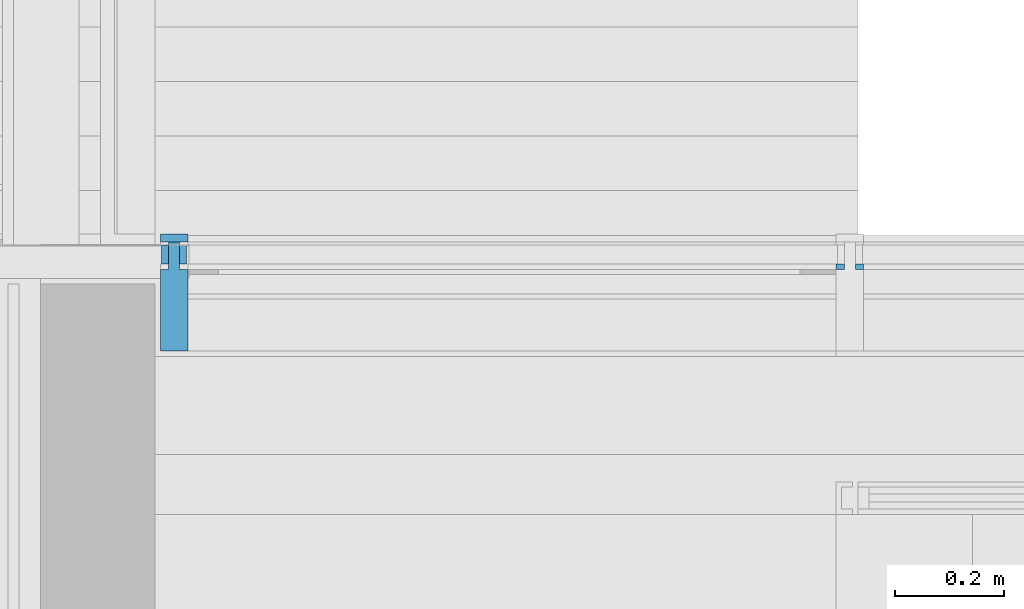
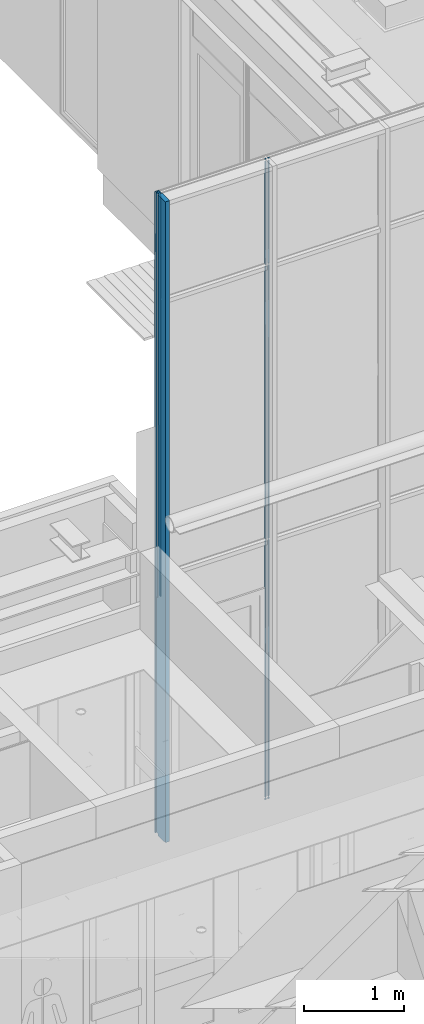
# One storey, part 97 of 347: 6 building element parts, 2 elements without a shape of their own.
"""IFC2X3 building model written with IfcOpenShell, lengths in millimetres."""

from ifc_helpers import new_model, entity, si_unit, converted_unit, derived_unit, money_unit, direction, frame, origin_with_axes, place, context, subcontext, project, spatial, faceted_brep, material, type_object, element, aggregate, save


model = new_model("IFC2X3")

# Units and contexts
model_context = context("Model", 3, precision=0.01, world=origin_with_axes(), true_north=direction((0.0, 1.0)))
plan_context = context("Plan", 3, precision=0.01, world=origin_with_axes(), true_north=direction((0.0, 1.0)))
body_context = subcontext(model_context, "Body", "Model", "MODEL_VIEW")
ifc_project = project(units=[si_unit("LENGTHUNIT", "METRE", prefix="MILLI"), si_unit("AREAUNIT", "SQUARE_METRE"), si_unit("VOLUMEUNIT", "CUBIC_METRE"), converted_unit("PLANEANGLEUNIT", "DEGREE", entity("IfcPlaneAngleMeasure", 0.0174532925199), si_unit("PLANEANGLEUNIT", "RADIAN"), dimensions=[0, 0, 0, 0, 0, 0, 0]), money_unit("EUR"), converted_unit("TIMEUNIT", "Year", entity("IfcTimeMeasure", 31556926.0), si_unit("TIMEUNIT", "SECOND"), dimensions=[0, 0, 1, 0, 0, 0, 0]), si_unit("MASSUNIT", "GRAM", prefix="KILO"), si_unit("THERMODYNAMICTEMPERATUREUNIT", "DEGREE_CELSIUS"), si_unit("LUMINOUSINTENSITYUNIT", "LUMEN"), si_unit("ENERGYUNIT", "JOULE", prefix="MEGA"), derived_unit("THERMALCONDUCTANCEUNIT", [(si_unit("POWERUNIT", "WATT"), 1), (si_unit("LENGTHUNIT", "METRE"), -1), (si_unit("THERMODYNAMICTEMPERATUREUNIT", "KELVIN"), -1)]), derived_unit("SPECIFICHEATCAPACITYUNIT", [(si_unit("ENERGYUNIT", "JOULE"), 1), (si_unit("MASSUNIT", "GRAM", prefix="KILO"), -1), (si_unit("THERMODYNAMICTEMPERATUREUNIT", "KELVIN"), -1)]), derived_unit("MASSDENSITYUNIT", [(si_unit("MASSUNIT", "GRAM", prefix="KILO"), 1), (si_unit("VOLUMEUNIT", "CUBIC_METRE"), -1)])], contexts=[model_context, plan_context])

# Site, building, storey
site_placement = place(None, origin_with_axes())
site = spatial("IfcSite", under=ifc_project, at=site_placement, Name="Site", CompositionType="ELEMENT")
building_placement = place(site_placement, origin_with_axes())
building = spatial("IfcBuilding", under=site, at=building_placement, Name="Naam gebouw", CompositionType="ELEMENT")
storey_placement = place(building_placement, origin_with_axes())
storey = spatial("IfcBuildingStorey", under=building, at=storey_placement, Name="begane grond", CompositionType="ELEMENT", Elevation=0.0)

# Column, building element parts
column_type = type_object("IfcColumnType", Name="31 vliesgevelstijl 50 x 215", PredefinedType="COLUMN")
column_1_placement = place(storey_placement, frame((18650.0, 18400.0, 0.0), z_axis=(0.0, 0.0, 1.0), x_axis=(1.0, 0.0, 0.0)))
column_1 = element("IfcColumn", 1, at=column_1_placement, inside=storey, type_object=column_type, Name="28_kolom ø 275mm", ObjectType="COLUMN")
ifc_material_1 = material(Name="Membraan - rubber")
building_element_part_1_placement = place(column_1_placement, origin_with_axes())
building_element_part_1 = element("IfcBuildingElementPart", 2, at=building_element_part_1_placement, material=ifc_material_1, Name="Membraan - rubber", context=body_context, shape_type="Brep", body=[
    faceted_brep([(23.0000002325, 192.999999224, 3185.00000058), (23.0000002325, 192.999999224, 4980.0), (23.0000002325, 195.000000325, 4980.0), (23.0000002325, 195.000000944, 6525.00000048), (23.0000002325, 160.000000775, 6525.00000048), (23.0000002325, 160.000000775, 3185.00000058), (15.0, 192.999999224, 3185.00000058), (15.0, 192.999999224, 3165.00000048), (23.0000002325, 192.999999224, 3165.00000048), (23.0000002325, 192.999999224, 2900.0), (10.0000001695, 192.999999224, 2900.0), (10.0000001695, 192.999999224, 4980.0), (10.0000001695, 195.000000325, 4980.0), (10.0000001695, 195.000000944, 7840.0), (23.0000002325, 195.000000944, 7840.0), (23.0000002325, 195.000000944, 7824.99999994), (15.0, 195.000000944, 7824.99999994), (15.0, 195.000000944, 7804.99999952), (23.0000002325, 195.000000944, 7804.99999952), (23.0000002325, 195.000000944, 6545.00000058), (15.0, 195.000000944, 6545.00000058), (15.0, 195.000000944, 6525.00000048), (15.0, 160.000000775, 6525.00000048), (10.0000001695, 160.000000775, 7840.0), (10.0000001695, 160.000000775, 2900.0), (23.0000002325, 160.000000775, 2900.0), (23.0000002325, 160.000000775, 3165.00000048), (15.0, 160.000000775, 3165.00000048), (15.0, 160.000000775, 3185.00000058), (15.0, 160.000000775, 6545.00000058), (23.0000002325, 160.000000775, 6545.00000058), (23.0000002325, 160.000000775, 7804.99999952), (15.0, 160.000000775, 7804.99999952), (15.0, 160.000000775, 7824.99999994), (23.0000002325, 160.000000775, 7824.99999994), (23.0000002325, 160.000000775, 7840.0)], [[[0, 1, 2, 3, 4, 5]], [[1, 0, 6, 7, 8, 9, 10, 11]], [[12, 2, 1, 11]], [[2, 12, 13, 14, 15, 16, 17, 18, 19, 20, 21, 3]], [[22, 4, 3, 21]], [[23, 24, 25, 26, 27, 28, 5, 4, 22, 29, 30, 31, 32, 33, 34, 35]], [[6, 0, 5, 28]], [[7, 6, 28, 27]], [[8, 7, 27, 26]], [[9, 8, 26, 25]], [[10, 9, 25, 24]], [[11, 10, 24, 23, 13, 12]], [[35, 14, 13, 23]], [[35, 34, 15, 14]], [[33, 16, 15, 34]], [[32, 17, 16, 33]], [[32, 31, 18, 17]], [[31, 30, 19, 18]], [[29, 20, 19, 30]], [[22, 21, 20, 29]]]),
])
building_element_part_2_placement = place(column_1_placement, origin_with_axes())
building_element_part_2 = element("IfcBuildingElementPart", 3, at=building_element_part_2_placement, material=ifc_material_1, Name="Membraan - rubber", context=body_context, shape_type="Brep", body=[
    faceted_brep([(-9.99999992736, 160.000000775, 2900.0), (-9.99999992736, 192.999999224, 2900.0), (-9.99999992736, 192.999999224, 4980.0), (-9.99999992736, 195.000000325, 4980.0), (-9.99999992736, 195.000000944, 7840.0), (-9.99999992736, 160.000000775, 7840.0), (-22.9999999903, 160.000000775, 2900.0), (-22.9999999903, 192.999999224, 2900.0), (-22.9999999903, 192.999999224, 4980.0), (-22.9999999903, 195.000000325, 4980.0), (-22.9999999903, 195.000000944, 7840.0), (-22.9999999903, 160.000000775, 7840.0)], [[[0, 1, 2, 3, 4, 5]], [[6, 7, 1, 0]], [[8, 2, 1, 7]], [[8, 9, 3, 2]], [[4, 3, 9, 10]], [[11, 5, 4, 10]], [[5, 11, 6, 0]], [[9, 8, 7, 6, 11, 10]]]),
])
ifc_material_2 = material(Name="Metaal - Aluminium")
building_element_part_3_placement = place(column_1_placement, origin_with_axes())
building_element_part_3 = element("IfcBuildingElementPart", 4, at=building_element_part_3_placement, material=ifc_material_2, Name="Metaal - Aluminium", context=body_context, shape_type="Brep", body=[
    faceted_brep([(9.99999880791, 192.999999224, 0.0), (9.99999880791, 192.999999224, 4980.0), (9.99999880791, 195.000000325, 4980.0), (9.99999880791, 195.000000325, 0.0), (9.99999880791, 200.000000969, 0.0), (9.99999880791, 200.000000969, 7840.0), (9.99999880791, 149.999999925, 7840.0), (9.99999880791, 149.999999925, 0.0), (-10.0000009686, 192.999999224, 0.0), (-10.0000009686, 192.999999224, 4980.0), (-10.0000009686, 195.000000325, 4980.0), (-10.0000009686, 195.000000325, 0.0), (-10.0000009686, 200.000000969, 0.0), (-10.0000009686, 200.000000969, 7840.0), (-10.0000009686, 149.999999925, 7840.0), (-25.0, 149.999999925, 7840.0), (-25.0, 0.0, 7840.0), (25.0000010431, 0.0, 7840.0), (25.0000010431, 149.999999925, 7840.0), (25.0000010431, 149.999999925, 0.0), (25.0000010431, 0.0, 0.0), (-25.0, 0.0, 0.0), (-25.0, 149.999999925, 0.0), (-10.0000009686, 149.999999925, 0.0)], [[[0, 1, 2, 3, 4, 5, 6, 7]], [[1, 0, 8, 9]], [[2, 1, 9, 10]], [[3, 2, 10, 11]], [[3, 11, 12, 4]], [[13, 5, 4, 12]], [[14, 15, 16, 17, 18, 6, 5, 13]], [[6, 18, 19, 7]], [[8, 0, 7, 19, 20, 21, 22, 23]], [[9, 8, 23, 14, 13, 12, 11, 10]], [[15, 14, 23, 22]], [[16, 15, 22, 21]], [[17, 16, 21, 20]], [[18, 17, 20, 19]]]),
])
building_element_part_4_placement = place(column_1_placement, origin_with_axes())
building_element_part_4 = element("IfcBuildingElementPart", 5, at=building_element_part_4_placement, material=ifc_material_2, Name="Metaal - Aluminium", context=body_context, shape_type="Brep", body=[
    faceted_brep([(-25.0, 215.0, 7840.0), (-25.0, 215.0, 0.0), (-25.0, 200.0, 0.0), (-25.0, 200.0, 7840.0), (25.0, 215.0, 7840.0), (25.0, 215.0, 0.0), (25.0, 200.0, 0.0), (25.0, 200.0, 7840.0)], [[[0, 1, 2, 3]], [[4, 5, 1, 0]], [[2, 1, 5, 6]], [[3, 2, 6, 7]], [[4, 0, 3, 7]], [[7, 6, 5, 4]]]),
])
aggregate(column_1, [building_element_part_1, building_element_part_2, building_element_part_3, building_element_part_4])

column_2_placement = place(storey_placement, frame((19890.0, 18400.0, 0.0), z_axis=(0.0, 0.0, 1.0), x_axis=(1.0, 0.0, 0.0)))
column_2 = element("IfcColumn", 6, at=column_2_placement, inside=storey, type_object=column_type, Name="28_kolom ø 275mm", ObjectType="COLUMN")
building_element_part_5_placement = place(column_2_placement, origin_with_axes())
building_element_part_5 = element("IfcBuildingElementPart", 7, at=building_element_part_5_placement, material=ifc_material_1, Name="Membraan - rubber", context=body_context, shape_type="Brep", body=[
    faceted_brep([(25.0000002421, 150.000000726, 7840.0), (25.0000002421, 150.00000155, 7824.99999994), (25.0000002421, 160.000000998, 7824.99999994), (25.0000002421, 160.000000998, 7840.0), (10.0000001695, 150.000000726, 7840.0), (10.0000001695, 150.00000155, 7824.99999994), (10.0000001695, 160.000000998, 7824.99999994), (23.000000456, 160.000000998, 7824.99999994), (23.000000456, 160.000000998, 7840.0), (10.0000001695, 160.000000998, 7840.0)], [[[0, 1, 2, 3]], [[4, 5, 1, 0]], [[6, 7, 2, 1, 5]], [[3, 2, 7, 8]], [[3, 8, 9, 4, 0]], [[9, 6, 5, 4]], [[8, 7, 6, 9]]]),
    faceted_brep([(23.000000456, 160.000000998, 14.9999997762), (25.0000002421, 160.000000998, 14.9999997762), (25.0000002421, 160.000000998, 0.0), (23.000000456, 160.000000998, 0.0), (25.0000002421, 150.000000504, 14.9999997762), (10.0000001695, 160.000000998, 14.9999997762), (10.0000001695, 150.000000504, 14.9999997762), (25.0000002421, 150.000000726, 0.0), (10.0000001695, 150.000000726, 0.0), (10.0000001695, 160.000000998, 0.0)], [[[0, 1, 2, 3]], [[4, 1, 0, 5, 6]], [[1, 4, 7, 2]], [[8, 9, 3, 2, 7]], [[5, 0, 3, 9]], [[6, 5, 9, 8]], [[4, 6, 8, 7]]]),
    faceted_brep([(23.000000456, 160.000000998, 3165.00000048), (25.0000002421, 160.000000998, 3165.00000048), (25.0000002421, 160.000000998, 35.0000005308), (23.000000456, 160.000000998, 35.0000005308), (25.0000002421, 149.999999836, 3165.00000048), (10.0000001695, 160.000000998, 3165.00000048), (10.0000001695, 149.999999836, 3165.00000048), (25.0000002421, 150.000000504, 35.0000005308), (10.0000001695, 150.000000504, 35.0000005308), (10.0000001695, 160.000000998, 35.0000005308)], [[[0, 1, 2, 3]], [[4, 1, 0, 5, 6]], [[1, 4, 7, 2]], [[3, 2, 7, 8, 9]], [[5, 0, 3, 9]], [[6, 5, 9, 8]], [[4, 6, 8, 7]]]),
    faceted_brep([(25.0000002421, 149.999999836, 6545.00000058), (25.0000002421, 160.000000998, 6545.00000058), (25.0000002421, 160.000000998, 7804.99999952), (25.0000002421, 150.00000155, 7804.99999952), (23.000000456, 160.000000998, 6545.00000058), (10.0000001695, 149.999999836, 6545.00000058), (10.0000001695, 160.000000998, 6545.00000058), (23.000000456, 160.000000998, 7804.99999952), (10.0000001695, 160.000000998, 7804.99999952), (10.0000001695, 150.00000155, 7804.99999952)], [[[0, 1, 2, 3]], [[4, 1, 0, 5, 6]], [[1, 4, 7, 2]], [[3, 2, 7, 8, 9]], [[5, 0, 3, 9]], [[6, 5, 9, 8]], [[4, 6, 8, 7]]]),
    faceted_brep([(25.0000002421, 149.999999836, 3185.00000058), (25.0000002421, 160.000000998, 3185.00000058), (25.0000002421, 160.000000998, 6525.00000048), (25.0000002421, 149.999999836, 6525.00000048), (23.000000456, 160.000000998, 3185.00000058), (10.0000001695, 149.999999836, 3185.00000058), (10.0000001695, 160.000000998, 3185.00000058), (23.000000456, 160.000000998, 6525.00000048), (10.0000001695, 160.000000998, 6525.00000048), (10.0000001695, 149.999999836, 6525.00000048)], [[[0, 1, 2, 3]], [[4, 1, 0, 5, 6]], [[1, 4, 7, 2]], [[3, 2, 7, 8, 9]], [[5, 0, 3, 9]], [[6, 5, 9, 8]], [[4, 6, 8, 7]]]),
])
building_element_part_6_placement = place(column_2_placement, origin_with_axes())
building_element_part_6 = element("IfcBuildingElementPart", 8, at=building_element_part_6_placement, material=ifc_material_1, Name="Membraan - rubber", context=body_context, shape_type="Brep", body=[
    faceted_brep([(-9.99999992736, 150.000000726, 7840.0), (-9.99999992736, 150.00000155, 7824.99999994), (-9.99999992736, 160.000000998, 7824.99999994), (-9.99999992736, 160.000000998, 7840.0), (-25.0, 150.000000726, 7840.0), (-25.0, 150.00000155, 7824.99999994), (-25.0, 160.000000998, 7824.99999994), (-23.0000002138, 160.000000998, 7824.99999994), (-23.0000002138, 160.000000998, 7840.0), (-25.0, 160.000000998, 7840.0)], [[[0, 1, 2, 3]], [[4, 5, 1, 0]], [[6, 7, 2, 1, 5]], [[3, 2, 7, 8]], [[3, 8, 9, 4, 0]], [[9, 6, 5, 4]], [[8, 7, 6, 9]]]),
    faceted_brep([(-23.0000002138, 160.000000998, 14.9999997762), (-9.99999992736, 160.000000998, 14.9999997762), (-9.99999992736, 160.000000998, 0.0), (-23.0000002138, 160.000000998, 0.0), (-9.99999992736, 150.000000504, 14.9999997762), (-25.0, 160.000000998, 14.9999997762), (-25.0, 150.000000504, 14.9999997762), (-9.99999992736, 150.000000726, 0.0), (-25.0, 150.000000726, 0.0), (-25.0, 160.000000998, 0.0)], [[[0, 1, 2, 3]], [[4, 1, 0, 5, 6]], [[1, 4, 7, 2]], [[8, 9, 3, 2, 7]], [[5, 0, 3, 9]], [[6, 5, 9, 8]], [[4, 6, 8, 7]]]),
    faceted_brep([(-23.0000002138, 160.000000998, 3165.00000048), (-9.99999992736, 160.000000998, 3165.00000048), (-9.99999992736, 160.000000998, 35.0000005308), (-23.0000002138, 160.000000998, 35.0000005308), (-9.99999992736, 149.999999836, 3165.00000048), (-25.0, 160.000000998, 3165.00000048), (-25.0, 149.999999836, 3165.00000048), (-9.99999992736, 150.000000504, 35.0000005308), (-25.0, 150.000000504, 35.0000005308), (-25.0, 160.000000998, 35.0000005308)], [[[0, 1, 2, 3]], [[4, 1, 0, 5, 6]], [[1, 4, 7, 2]], [[3, 2, 7, 8, 9]], [[5, 0, 3, 9]], [[6, 5, 9, 8]], [[4, 6, 8, 7]]]),
    faceted_brep([(-9.99999992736, 149.999999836, 6545.00000058), (-9.99999992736, 160.000000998, 6545.00000058), (-9.99999992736, 160.000000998, 7804.99999952), (-9.99999992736, 150.00000155, 7804.99999952), (-23.0000002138, 160.000000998, 6545.00000058), (-25.0, 149.999999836, 6545.00000058), (-25.0, 160.000000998, 6545.00000058), (-23.0000002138, 160.000000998, 7804.99999952), (-25.0, 160.000000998, 7804.99999952), (-25.0, 150.00000155, 7804.99999952)], [[[0, 1, 2, 3]], [[4, 1, 0, 5, 6]], [[1, 4, 7, 2]], [[3, 2, 7, 8, 9]], [[5, 0, 3, 9]], [[6, 5, 9, 8]], [[4, 6, 8, 7]]]),
    faceted_brep([(-9.99999992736, 149.999999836, 3185.00000058), (-9.99999992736, 160.000000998, 3185.00000058), (-9.99999992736, 160.000000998, 6525.00000048), (-9.99999992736, 149.999999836, 6525.00000048), (-23.0000002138, 160.000000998, 3185.00000058), (-25.0, 149.999999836, 3185.00000058), (-25.0, 160.000000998, 3185.00000058), (-23.0000002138, 160.000000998, 6525.00000048), (-25.0, 160.000000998, 6525.00000048), (-25.0, 149.999999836, 6525.00000048)], [[[0, 1, 2, 3]], [[4, 1, 0, 5, 6]], [[1, 4, 7, 2]], [[3, 2, 7, 8, 9]], [[5, 0, 3, 9]], [[6, 5, 9, 8]], [[4, 6, 8, 7]]]),
])
aggregate(column_2, [building_element_part_5, building_element_part_6])

save(model, "model.ifc")
